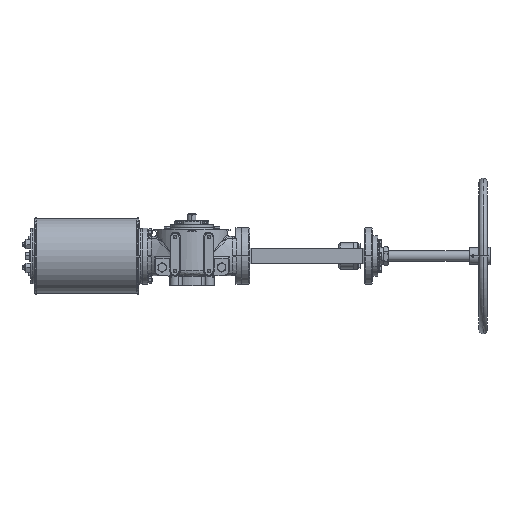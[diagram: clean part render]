
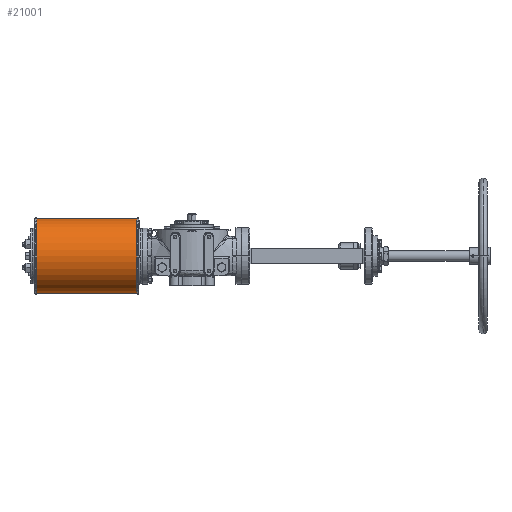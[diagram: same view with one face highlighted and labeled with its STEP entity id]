
A CAD part, front view. The second image highlights one B-rep face of the part: STEP entity #21001.
In plain terms, the highlighted cylindrical face has radius 109.5 mm (diameter 219 mm), a partial arc.
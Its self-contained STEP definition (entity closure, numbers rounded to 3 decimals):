
#1635 = DIRECTION ( 'NONE',  ( 1., 0., 0. ) ) ;
#2368 = EDGE_CURVE ( 'NONE', #74966, #6882, #76174, .T. ) ;
#4413 = CARTESIAN_POINT ( 'NONE',  ( -456.5, 22.5, 167. ) ) ;
#6882 = VERTEX_POINT ( 'NONE', #103432 ) ;
#9284 = DIRECTION ( 'NONE',  ( 1., 0., 0. ) ) ;
#13398 = EDGE_CURVE ( 'NONE', #17220, #74966, #57809, .T. ) ;
#13664 = DIRECTION ( 'NONE',  ( 0., 0., 1. ) ) ;
#17220 = VERTEX_POINT ( 'NONE', #40492 ) ;
#21001 = ADVANCED_FACE ( 'NONE', ( #78695 ), #87252, .T. ) ;
#22627 = CARTESIAN_POINT ( 'NONE',  ( -456.5, 22.5, 57.5 ) ) ;
#31274 = VECTOR ( 'NONE', #1635, 1000. ) ;
#35244 = LINE ( 'NONE', #92260, #31274 ) ;
#38011 = AXIS2_PLACEMENT_3D ( 'NONE', #95262, #94754, #13664 ) ;
#40492 = CARTESIAN_POINT ( 'NONE',  ( -456.5, 22.5, -52. ) ) ;
#43027 = ORIENTED_EDGE ( 'NONE', *, *, #105108, .F. ) ;
#46604 = VERTEX_POINT ( 'NONE', #4413 ) ;
#47161 = AXIS2_PLACEMENT_3D ( 'NONE', #98657, #57582, #82087 ) ;
#49287 = ORIENTED_EDGE ( 'NONE', *, *, #82760, .T. ) ;
#50242 = ORIENTED_EDGE ( 'NONE', *, *, #2368, .T. ) ;
#51272 = AXIS2_PLACEMENT_3D ( 'NONE', #22627, #79124, #78589 ) ;
#52556 = VECTOR ( 'NONE', #9284, 1000. ) ;
#57582 = DIRECTION ( 'NONE',  ( -1., 0., 0. ) ) ;
#57809 = LINE ( 'NONE', #97855, #52556 ) ;
#63179 = CARTESIAN_POINT ( 'NONE',  ( -161.5, 22.5, -52. ) ) ;
#69995 = CIRCLE ( 'NONE', #51272, 109.5 ) ;
#74966 = VERTEX_POINT ( 'NONE', #63179 ) ;
#76174 = CIRCLE ( 'NONE', #47161, 109.5 ) ;
#78589 = DIRECTION ( 'NONE',  ( 0., 0., 1. ) ) ;
#78695 = FACE_OUTER_BOUND ( 'NONE', #102541, .T. ) ;
#79124 = DIRECTION ( 'NONE',  ( 1., 0., 0. ) ) ;
#82087 = DIRECTION ( 'NONE',  ( 0., 0., 1. ) ) ;
#82760 = EDGE_CURVE ( 'NONE', #46604, #17220, #69995, .T. ) ;
#87252 = CYLINDRICAL_SURFACE ( 'NONE', #38011, 109.5 ) ;
#92260 = CARTESIAN_POINT ( 'NONE',  ( -456.5, 22.5, 167. ) ) ;
#94754 = DIRECTION ( 'NONE',  ( 1., 0., 0. ) ) ;
#95262 = CARTESIAN_POINT ( 'NONE',  ( -456.5, 22.5, 57.5 ) ) ;
#97855 = CARTESIAN_POINT ( 'NONE',  ( -456.5, 22.5, -52. ) ) ;
#98657 = CARTESIAN_POINT ( 'NONE',  ( -161.5, 22.5, 57.5 ) ) ;
#102541 = EDGE_LOOP ( 'NONE', ( #49287, #102782, #50242, #43027 ) ) ;
#102782 = ORIENTED_EDGE ( 'NONE', *, *, #13398, .T. ) ;
#103432 = CARTESIAN_POINT ( 'NONE',  ( -161.5, 22.5, 167. ) ) ;
#105108 = EDGE_CURVE ( 'NONE', #46604, #6882, #35244, .T. ) ;
